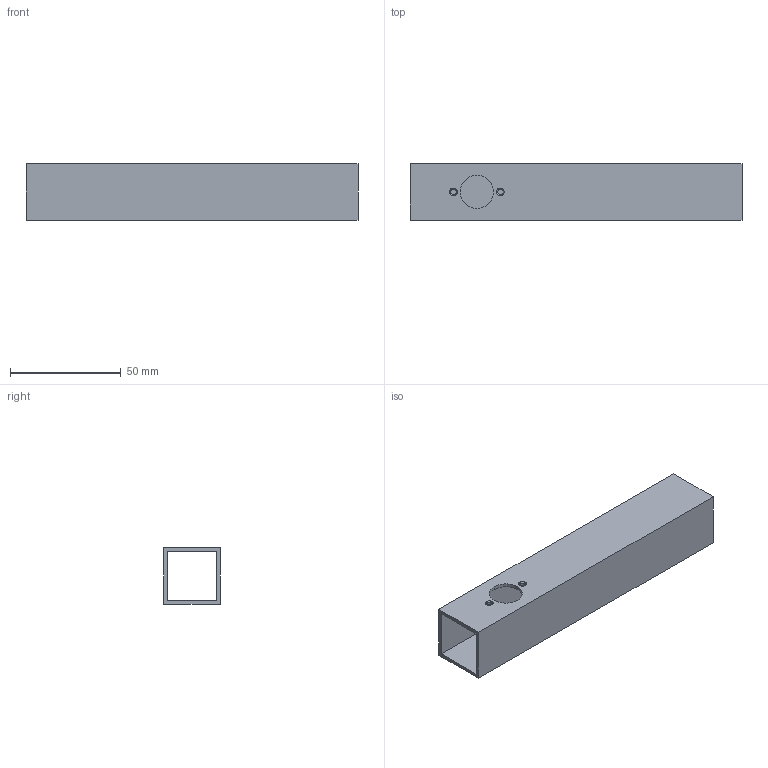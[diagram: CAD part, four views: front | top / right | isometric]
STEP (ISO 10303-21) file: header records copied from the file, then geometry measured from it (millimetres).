
FILE_DESCRIPTION(/* description */ ('(C) Elphel, Inc. 2012. Licensed under CERN OHL v.1.1 or later, see http://ohwr.org/cernohl'),/* implementation_level */ '2;1');
FILE_NAME(/* name */ '0353-25-213B',/* time_stamp */ '2012-06-08T13:26:38-06:00',/* author */ (''),/* organization */ ('Elphel, Inc'),/* preprocessor_version */ 'ST-DEVELOPER v12',/* originating_system */ 'VariCAD 2012-1.04; kernel version (20100102)',/* authorisation */ '');
FILE_SCHEMA (('AUTOMOTIVE_DESIGN'));
Length unit declared in the file: millimetre
Products named in the file (1): Part
Bounding box: 150 x 25.4 x 25.4 mm (x, y, z)
Volume: 22381.7 mm3; surface area: 28669.4 mm2
Topology: 3 solids, 3 shells, 30 faces, 70 edges, 44 vertices
Faces by surface type: cylinder 14, plane 12, cone 4
Entity records: 1142 total; most frequent: DIRECTION 166, CARTESIAN_POINT 148, ORIENTED_EDGE 140, EDGE_CURVE 70, AXIS2_PLACEMENT_3D 62, VERTEX_POINT 44, LINE 42, VECTOR 42
